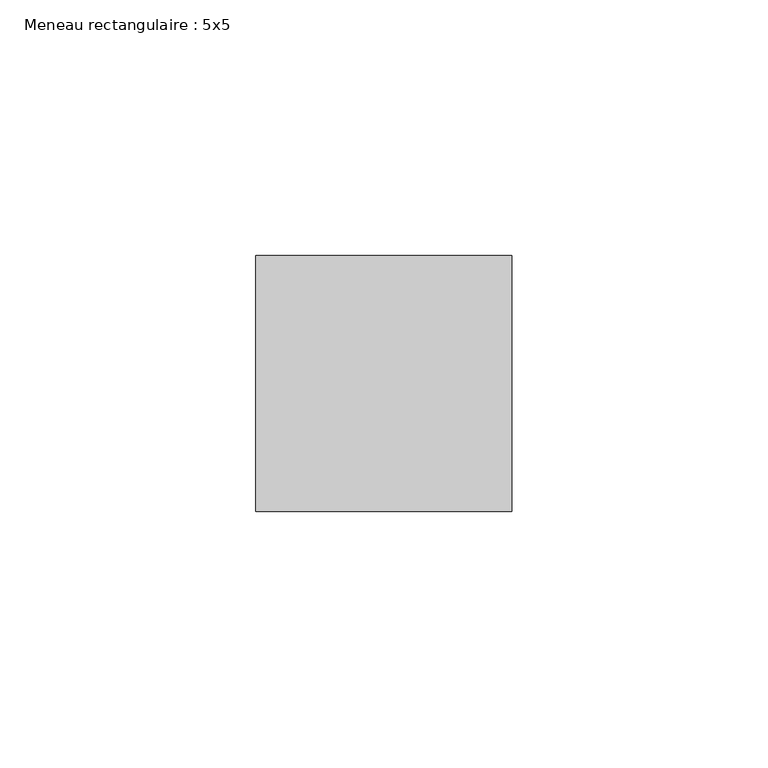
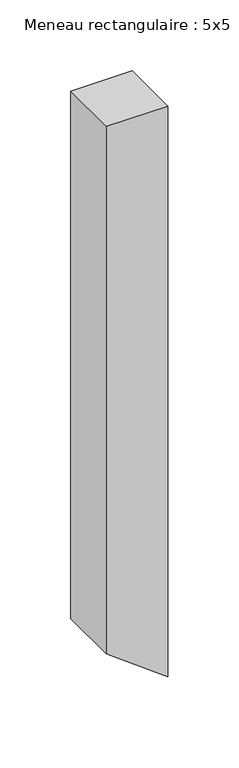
"""IFC4 building model written with IfcOpenShell, lengths in millimetres: member geometry, Meneau rectangulaire : 5x5."""

from ifc_helpers import new_model, si_unit, frame, origin, place, context, project, spatial, polyline, outline, extrude, source, transform, mapped, element, save


def meneau_rectangulaire_5x5_e8c0a1f0(model_context):
    return source(origin(), model_context, "Body", "SweptSolid", [
        extrude(outline(polyline([(0.0, 0.0), (0.0, -50.0), (-453.8656251, -50.0), (-491.0671577, 0.0), (0.0, 0.0)])), frame((0.0, -25.0, 0.0), z_axis=(0.0, 1.0, 0.0), x_axis=(0.0, 0.0, 1.0)), (0.0, 0.0, 1.0), 50.0),
    ])


if __name__ == "__main__":
    model = new_model("IFC4")
    model_context = context("Model", 3, world=origin())
    ifc_project = project(units=[si_unit("LENGTHUNIT", "METRE", prefix="MILLI")], contexts=[model_context])
    site = spatial("IfcSite", under=ifc_project)
    building = spatial("IfcBuilding", under=site)
    placement = place(None, origin())
    meneau_rectangulaire_5x5_shape = meneau_rectangulaire_5x5_e8c0a1f0(model_context)
    element("IfcMember", 1, ObjectType="Meneau rectangulaire : 5x5", at=placement, inside=building, context=model_context, shape_type="MappedRepresentation", body=[
        mapped(meneau_rectangulaire_5x5_shape, transform((0.0, 0.0, 0.0), x_axis=(1.0, 0.0, 0.0), y_axis=(0.0, 1.0, 0.0), z_axis=(0.0, 0.0, 1.0))),
    ])
    save(model, "model.ifc")
